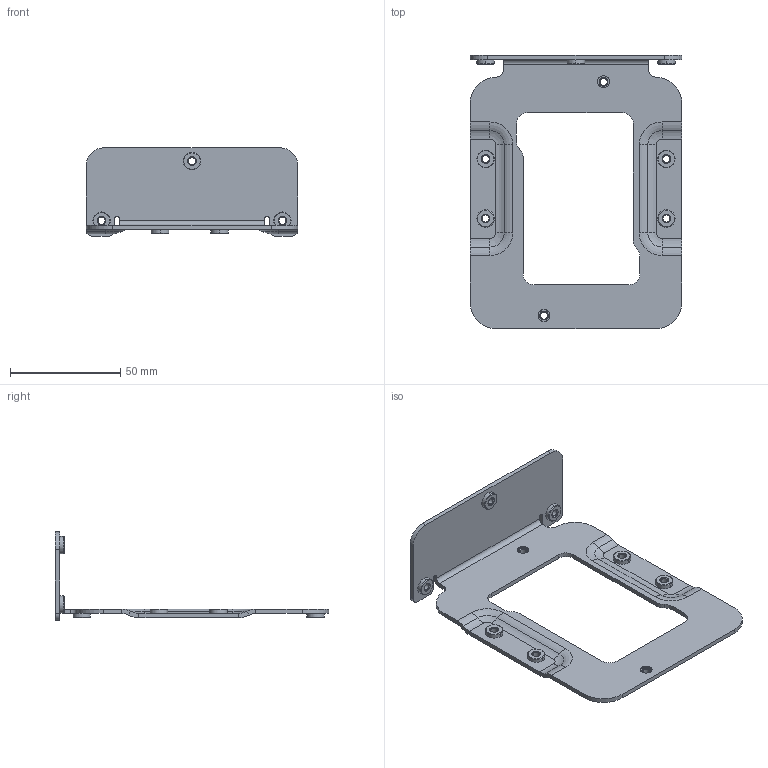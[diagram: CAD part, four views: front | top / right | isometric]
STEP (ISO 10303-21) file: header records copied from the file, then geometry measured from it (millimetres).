
FILE_DESCRIPTION((''),'2;1');
FILE_NAME('5300058_ASM','2015-11-03T',('smar'),('Sierra Wireless'),'PRO/ENGINEER BY PARAMETRIC TECHNOLOGY CORPORATION, 2013130','PRO/ENGINEER BY PARAMETRIC TECHNOLOGY CORPORATION, 2013130','');
FILE_SCHEMA(('AUTOMOTIVE_DESIGN { 1 0 10303 214 1 1 1 1 }'));
Length unit declared in the file: millimetre
Products named in the file (3): 5300058; PEM_S-M4-2-Z1; 5300058_ASM
Assembly tree (10 placements, depth 2):
  5300058_ASM
    5300058
    PEM_S-M4-2-Z1  x9
Bounding box: 96 x 124 x 40 mm (x, y, z)
Volume: 22383 mm3; surface area: 25030.6 mm2
Topology: 10 solids, 10 shells, 306 faces, 684 edges, 416 vertices
Faces by surface type: cylinder 138, plane 80, cone 72, torus 8, bspline 8
Entity records: 6478 total; most frequent: CARTESIAN_POINT 882, DIRECTION 846, ORIENTED_EDGE 728, PRESENTATION_STYLE_ASSIGNMENT 372, STYLED_ITEM 366, CURVE_STYLE 364, EDGE_CURVE 364, AXIS2_PLACEMENT_3D 331
